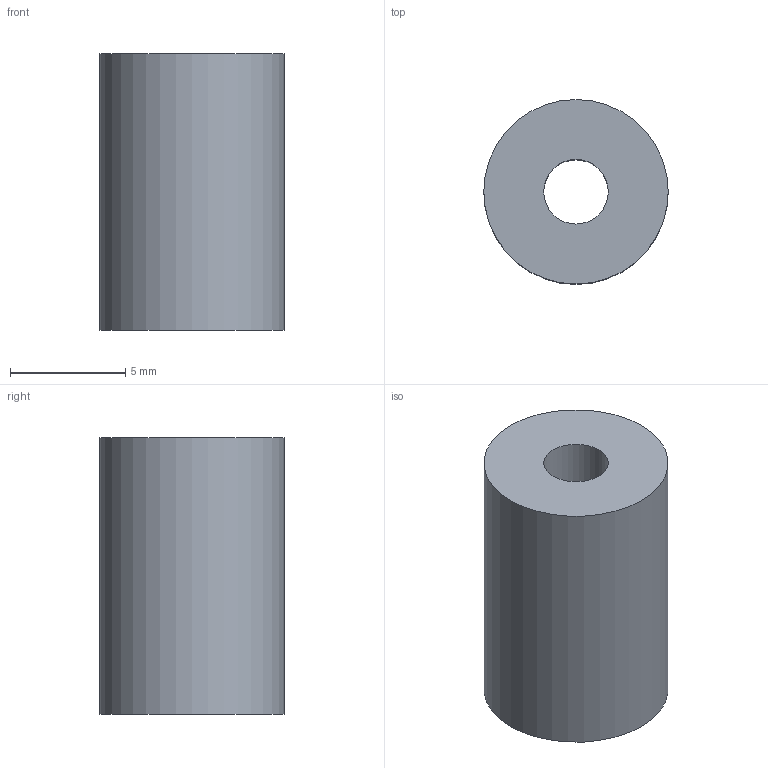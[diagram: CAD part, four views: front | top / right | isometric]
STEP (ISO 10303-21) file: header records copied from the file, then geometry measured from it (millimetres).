
FILE_DESCRIPTION(('Open CASCADE Model'),'2;1');
FILE_NAME('Open CASCADE Shape Model','2026-10-12T22:10:18',('Author'),( 'Open CASCADE'),'Open CASCADE STEP processor 7.9','Open CASCADE 7.9' ,'Unknown');
FILE_SCHEMA(('AUTOMOTIVE_DESIGN { 1 0 10303 214 1 1 1 1 }'));
Length unit declared in the file: millimetre
Products named in the file (1): Open CASCADE STEP translator 7.9 28
Bounding box: 8 x 8 x 12 mm (x, y, z)
Volume: 529.3 mm3; surface area: 495.4 mm2
Topology: 1 solids, 1 shells, 4 faces, 6 edges, 4 vertices
Faces by surface type: cylinder 2, plane 2
Full cylindrical faces by diameter (mm): 2.8 x1, 8 x1
Entity records: 186 total; most frequent: DIRECTION 32, CARTESIAN_POINT 27, ORIENTED_EDGE 12, PCURVE 12, DEFINITIONAL_REPRESENTATION 12, LINE 10, VECTOR 10, AXIS2_PLACEMENT_3D 9
